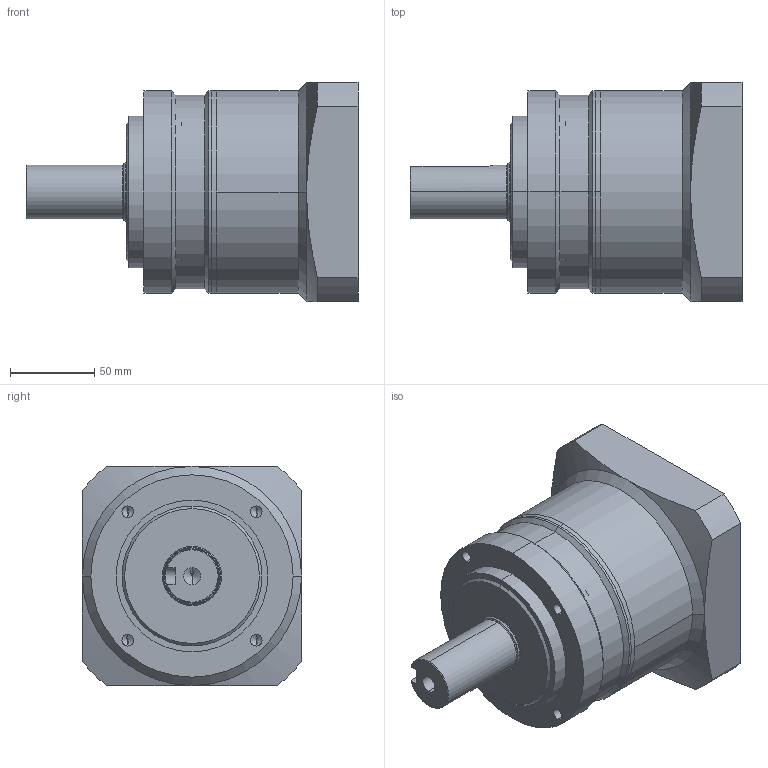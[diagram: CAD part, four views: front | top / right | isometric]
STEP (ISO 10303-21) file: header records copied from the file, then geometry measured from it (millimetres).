
FILE_DESCRIPTION (( 'STEP AP203' ), '1' );
FILE_NAME ('TL-120-L1-22-110-145-M8.STEP', '2025-06-06T06:11:11', ( 'Microsoft' ), ( 'Microsoft' ), 'SwSTEP 2.0', 'SolidWorks 2016', '' );
FILE_SCHEMA (( 'CONFIG_CONTROL_DESIGN' ));
Length unit declared in the file: millimetre
Products named in the file (1): TL-120-L1-22-110-145-M8
Bounding box: 197 x 130 x 130 mm (x, y, z)
Volume: 1511421.9 mm3; surface area: 159434.6 mm2
Topology: 4 solids, 4 shells, 106 faces, 233 edges, 133 vertices
Faces by surface type: cylinder 47, cone 32, plane 22, bspline 5
Entity records: 2984 total; most frequent: CARTESIAN_POINT 646, DIRECTION 511, ORIENTED_EDGE 430, EDGE_CURVE 215, AXIS2_PLACEMENT_3D 210, VERTEX_POINT 133, EDGE_LOOP 122, CIRCLE 108
